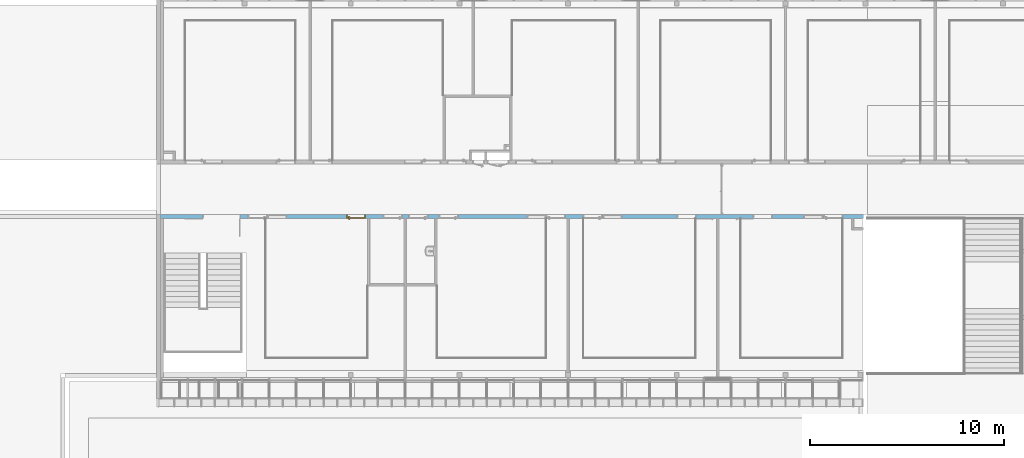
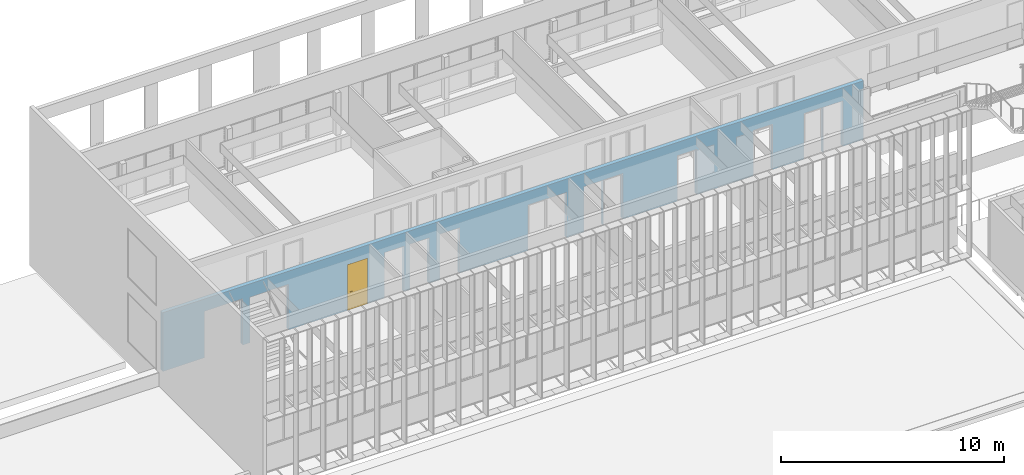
# One storey, part 40 of 106: 1 door, 15 openings, plus 1 element that does not belong to this part.
"""IFC2X3 building model written with IfcOpenShell, lengths in centimetres."""

from ifc_helpers import new_model, entity, si_unit, converted_unit, derived_unit, direction, frame, frame_2d, origin, place, context, subcontext, project, spatial, polyline, rectangle, extrude, clip, bounded_halfspace, faceted_brep, source, transform, mapped, material, material_list, layer, layer_set, layer_usage, type_object, type_shapes, element, fill, save


model = new_model("IFC2X3")

# Units and contexts
model_context = context("Model", 3, precision=0.001, world=origin(), true_north=direction((6.12303176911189e-17, 1.0)))
body_context = subcontext(model_context, "Body", "Model", "MODEL_VIEW")
ifc_project = project(units=[si_unit("LENGTHUNIT", "METRE", prefix="CENTI"), si_unit("AREAUNIT", "SQUARE_METRE"), si_unit("VOLUMEUNIT", "CUBIC_METRE"), converted_unit("PLANEANGLEUNIT", "DEGREE", entity("IfcRatioMeasure", 0.0174532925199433), si_unit("PLANEANGLEUNIT", "RADIAN"), dimensions=[0, 0, 0, 0, 0, 0, 0]), si_unit("MASSUNIT", "GRAM", prefix="KILO"), derived_unit("MASSDENSITYUNIT", [(si_unit("MASSUNIT", "GRAM", prefix="KILO"), 1), (si_unit("LENGTHUNIT", "METRE"), -3)]), si_unit("TIMEUNIT", "SECOND"), si_unit("FREQUENCYUNIT", "HERTZ"), si_unit("THERMODYNAMICTEMPERATUREUNIT", "DEGREE_CELSIUS"), derived_unit("THERMALTRANSMITTANCEUNIT", [(si_unit("MASSUNIT", "GRAM", prefix="KILO"), 1), (si_unit("THERMODYNAMICTEMPERATUREUNIT", "KELVIN"), -1), (si_unit("TIMEUNIT", "SECOND"), -3)]), derived_unit("VOLUMETRICFLOWRATEUNIT", [(si_unit("LENGTHUNIT", "METRE"), 3), (si_unit("TIMEUNIT", "SECOND"), -1)]), si_unit("ELECTRICCURRENTUNIT", "AMPERE"), si_unit("ELECTRICVOLTAGEUNIT", "VOLT"), si_unit("POWERUNIT", "WATT"), si_unit("FORCEUNIT", "NEWTON", prefix="KILO"), si_unit("ILLUMINANCEUNIT", "LUX"), si_unit("LUMINOUSFLUXUNIT", "LUMEN"), si_unit("LUMINOUSINTENSITYUNIT", "CANDELA"), derived_unit("USERDEFINED", [(si_unit("MASSUNIT", "GRAM", prefix="KILO"), -1), (si_unit("LENGTHUNIT", "METRE"), -2), (si_unit("TIMEUNIT", "SECOND"), 3), (si_unit("LUMINOUSFLUXUNIT", "LUMEN"), 1)]), derived_unit("LINEARVELOCITYUNIT", [(si_unit("LENGTHUNIT", "METRE"), 1), (si_unit("TIMEUNIT", "SECOND"), -1)]), si_unit("PRESSUREUNIT", "PASCAL"), derived_unit("USERDEFINED", [(si_unit("LENGTHUNIT", "METRE"), -2), (si_unit("MASSUNIT", "GRAM", prefix="KILO"), 1), (si_unit("TIMEUNIT", "SECOND"), -2)])], contexts=[model_context])

# Site, building, storey
site_placement = place(None, frame((-2781.94577612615, 7442.24238424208, 0.0)))
site = spatial("IfcSite", under=ifc_project, at=site_placement, Name="Default", CompositionType="ELEMENT")
building_placement = place(site_placement, origin())
building = spatial("IfcBuilding", under=site, at=building_placement, CompositionType="ELEMENT")
storey_placement = place(building_placement, frame((0.0, 0.0, 422.0)))
storey = spatial("IfcBuildingStorey", under=building, at=storey_placement, Name="Toiture - Cuisine", CompositionType="ELEMENT", Elevation=421.999999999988)

# Wall, openings, door
ifc_material_1 = material(Name="01 - Maçonnerie")
ifc_layer = layer(ifc_material_1, 20.0)
ifc_layer_set = layer_set([ifc_layer], Name="Mur de base:04 - Structure - béton - 20cm")
ifc_layer_usage = layer_usage(ifc_layer_set, "AXIS2", "NEGATIVE", 10.0)
wall_type = type_object("IfcWallType", Name="Mur de base:04 - Structure - béton - 20cm", PredefinedType="STANDARD", material=ifc_layer_set)
wall_placement = place(building_placement, frame((-4787.99987760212, -1100.0, 422.0), z_axis=(0.0, 0.0, 1.0), x_axis=(-1.0, 0.0, 0.0)))
wall = element("IfcWallStandardCase", 1, at=wall_placement, inside=storey, type_object=wall_type, material=ifc_layer_usage, Name="Mur de base:04 - Structure - béton - 20cm", ObjectType="Mur de base:04 - Structure - béton - 20cm", context=body_context, shape_type="Clipping", body=[
    clip(extrude(rectangle(XDim=3621.50000006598, YDim=20.0000000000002, at=frame_2d((1810.75000003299, 5.32907051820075e-14), x_axis=(-1.0, 0.0))), origin(), (0.0, 0.0, 1.0), 321.0), bounded_halfspace(frame((4.0, -10.0, 321.0), z_axis=(0.0, 0.0, -1.0), x_axis=(0.0, -1.0, 0.0)), True, frame((4.0, -10.0, 321.0)), polyline([(0.0, 0.0), (720.0, 0.0), (730.0, 0.0), (3617.50000006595, 0.0), (3617.50000006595, 20.0), (3602.20000006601, 20.0), (3077.50016406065, 20.0), (3075.50016406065, 20.0), (2550.5, 20.0), (2540.5, 20.0), (2362.50000003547, 20.0), (2352.50000003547, 20.0), (2203.5, 20.0), (2193.5, 20.0), (1632.5, 20.0), (1630.5, 20.0), (1522.50016406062, 20.0), (1512.50016406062, 20.0), (1440.5, 20.0), (1438.5, 20.0), (862.500000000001, 20.0), (860.5, 20.0), (750.500000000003, 20.0), (740.500000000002, 20.0), (630.500000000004, 20.0), (628.500000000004, 20.0), (104.500000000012, 20.0), (102.500000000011, 20.0), (56.0, 20.0), (46.0, 20.0), (0.0, 20.0), (0.0, 0.0)]))),
])
opening_1_placement = place(wall_placement, frame((3071.50016406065, -10.0, 0.0)))
element("IfcOpeningElement", 2, at=opening_1_placement, cuts=wall, Name="Int. Simple:PV (0.93m x 2.50m):1", ObjectType="Opening", context=body_context, shape_type="SweptSolid", body=[
    extrude(rectangle(XDim=248.500000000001, YDim=99.9999999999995, at=frame_2d((124.250000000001, 49.9999999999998), x_axis=(1.0, 0.0))), frame((0.0, 0.0, 0.0), z_axis=(0.0, 1.0, 0.0), x_axis=(0.0, 0.0, 1.0)), (0.0, 0.0, 1.0), 20.0),
])
opening_2_placement = place(wall_placement, frame((1534.5, -10.0, 0.0)))
element("IfcOpeningElement", 3, at=opening_2_placement, cuts=wall, Name="Int. Simple:PV (0.93m x 2.50m):1", ObjectType="Opening", context=body_context, shape_type="SweptSolid", body=[
    extrude(rectangle(XDim=248.500000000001, YDim=99.9999999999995, at=frame_2d((124.250000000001, 50.0), x_axis=(1.0, 0.0))), frame((0.0, 0.0, 0.0), z_axis=(0.0, 1.0, 0.0), x_axis=(0.0, 0.0, 1.0)), (0.0, 0.0, 1.0), 20.0),
])
opening_3_placement = place(wall_placement, frame((861.500000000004, -10.0, 0.0)))
element("IfcOpeningElement", 4, at=opening_3_placement, cuts=wall, Name="Int. Simple:PV (0.93m x 2.50m):1", ObjectType="Opening", context=body_context, shape_type="SweptSolid", body=[
    extrude(rectangle(XDim=248.500000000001, YDim=99.9999999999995, at=frame_2d((124.250000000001, 50.0), x_axis=(1.0, 0.0))), frame((0.0, 0.0, 0.0), z_axis=(0.0, 1.0, 0.0), x_axis=(0.0, 0.0, 1.0)), (0.0, 0.0, 1.0), 20.0),
])
opening_4_placement = place(wall_placement, frame((469.500000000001, -10.0, 0.0)))
element("IfcOpeningElement", 5, at=opening_4_placement, cuts=wall, Name="Int. Simple:PV (0.93m x 2.50m):1", ObjectType="Opening", context=body_context, shape_type="SweptSolid", body=[
    extrude(rectangle(XDim=248.500000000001, YDim=99.9999999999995, at=frame_2d((124.250000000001, 49.9999999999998), x_axis=(1.0, 0.0))), frame((0.0, 0.0, 0.0), z_axis=(0.0, 1.0, 0.0), x_axis=(0.0, 0.0, 1.0)), (0.0, 0.0, 1.0), 20.0),
])
opening_5_placement = place(wall_placement, frame((2971.50016406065, -10.0, 0.0)))
element("IfcOpeningElement", 6, at=opening_5_placement, cuts=wall, Name="châssis intérieur vitré:châssis intérieur vitré (h=270) R+1:1", ObjectType="Opening", context=body_context, shape_type="SweptSolid", body=[
    extrude(rectangle(XDim=250.0, YDim=99.9999999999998, at=frame_2d((125.0, 49.9999999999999), x_axis=(1.0, 0.0))), frame((0.0, 0.0, 0.0), z_axis=(0.0, 1.0, 0.0), x_axis=(0.0, 0.0, 1.0)), (0.0, 0.0, 1.0), 20.0),
])
opening_6_placement = place(wall_placement, frame((1634.50000000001, -10.0, 0.0)))
element("IfcOpeningElement", 7, at=opening_6_placement, cuts=wall, Name="châssis intérieur vitré:châssis intérieur vitré (h=270) R+1:1", ObjectType="Opening", context=body_context, shape_type="SweptSolid", body=[
    extrude(rectangle(XDim=250.0, YDim=99.9999999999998, at=frame_2d((125.0, 49.9999999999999), x_axis=(1.0, 0.0))), frame((0.0, 0.0, 0.0), z_axis=(0.0, 1.0, 0.0), x_axis=(0.0, 0.0, 1.0)), (0.0, 0.0, 1.0), 20.0),
])
opening_7_placement = place(wall_placement, frame((1243.0, -10.0, 0.0)))
element("IfcOpeningElement", 8, at=opening_7_placement, cuts=wall, Name="châssis intérieur vitré:châssis intérieur vitré (h=270) R+1:1", ObjectType="Opening", context=body_context, shape_type="SweptSolid", body=[
    extrude(rectangle(XDim=250.0, YDim=99.9999999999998, at=frame_2d((125.0, 49.9999999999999), x_axis=(1.0, 0.0))), frame((0.0, 0.0, 0.0), z_axis=(0.0, 1.0, 0.0), x_axis=(0.0, 0.0, 1.0)), (0.0, 0.0, 1.0), 20.0),
])
opening_8_placement = place(wall_placement, frame((208.0, -10.0, 0.0)))
element("IfcOpeningElement", 9, at=opening_8_placement, cuts=wall, Name="châssis intérieur vitré:châssis intérieur vitré (h=270) R+1:1", ObjectType="Opening", context=body_context, shape_type="SweptSolid", body=[
    extrude(rectangle(XDim=250.0, YDim=99.9999999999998, at=frame_2d((125.0, 49.9999999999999), x_axis=(1.0, 0.0))), frame((0.0, 0.0, 0.0), z_axis=(0.0, 1.0, 0.0), x_axis=(0.0, 0.0, 1.0)), (0.0, 0.0, 1.0), 20.0),
])
opening_9_placement = place(wall_placement, frame((2564.5, -10.0, 0.0)))
opening_9 = element("IfcOpeningElement", 10, at=opening_9_placement, cuts=wall, Name="Int. Simple:PV (0.93m x 2.50m):1", ObjectType="Opening", context=body_context, shape_type="SweptSolid", body=[
    extrude(rectangle(XDim=248.500000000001, YDim=99.9999999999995, at=frame_2d((124.250000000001, 50.0), x_axis=(1.0, 0.0))), frame((0.0, 0.0, 0.0), z_axis=(0.0, 1.0, 0.0), x_axis=(0.0, 0.0, 1.0)), (0.0, 0.0, 1.0), 20.0),
])
opening_10_placement = place(wall_placement, frame((2374.5, -10.0, 0.0)))
element("IfcOpeningElement", 11, at=opening_10_placement, cuts=wall, Name="Int. Simple:PP simple (0.93m x 2.50m):1", ObjectType="Opening", context=body_context, shape_type="SweptSolid", body=[
    extrude(rectangle(XDim=248.500000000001, YDim=99.9999999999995, at=frame_2d((124.250000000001, 49.9999999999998), x_axis=(1.0, 0.0))), frame((0.0, 0.0, 0.0), z_axis=(0.0, 1.0, 0.0), x_axis=(0.0, 0.0, 1.0)), (0.0, 0.0, 1.0), 20.0),
])
opening_11_placement = place(wall_placement, frame((2244.5, -10.0, 0.0)))
element("IfcOpeningElement", 12, at=opening_11_placement, cuts=wall, Name="Int. Simple:PP simple (0.93m x 2.50m):1", ObjectType="Opening", context=body_context, shape_type="SweptSolid", body=[
    extrude(rectangle(XDim=248.500000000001, YDim=99.9999999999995, at=frame_2d((124.250000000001, 49.9999999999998), x_axis=(1.0, 0.0))), frame((0.0, 0.0, 0.0), z_axis=(0.0, 1.0, 0.0), x_axis=(0.0, 0.0, 1.0)), (0.0, 0.0, 1.0), 20.0),
])
opening_12_placement = place(wall_placement, frame((2087.5, -10.0, 0.0)))
element("IfcOpeningElement", 13, at=opening_12_placement, cuts=wall, Name="Int. Simple:PV (0.93m x 2.50m):1", ObjectType="Opening", context=body_context, shape_type="SweptSolid", body=[
    extrude(rectangle(XDim=248.500000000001, YDim=99.9999999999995, at=frame_2d((124.250000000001, 49.9999999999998), x_axis=(1.0, 0.0))), frame((0.0, 0.0, 0.0), z_axis=(0.0, 1.0, 0.0), x_axis=(0.0, 0.0, 1.0)), (0.0, 0.0, 1.0), 20.0),
])
opening_13_placement = place(wall_placement, frame((1344.5, -10.0, 0.0)))
element("IfcOpeningElement", 14, at=opening_13_placement, cuts=wall, Name="Int. Simple:PV (0.93m x 2.50m):1", ObjectType="Opening", context=body_context, shape_type="SweptSolid", body=[
    extrude(rectangle(XDim=248.500000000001, YDim=99.9999999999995, at=frame_2d((124.250000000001, 49.9999999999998), x_axis=(1.0, 0.0))), frame((0.0, 0.0, 0.0), z_axis=(0.0, 1.0, 0.0), x_axis=(0.0, 0.0, 1.0)), (0.0, 0.0, 1.0), 20.0),
])
opening_14_placement = place(wall_placement, frame((106.500000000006, -10.0, 0.0)))
element("IfcOpeningElement", 15, at=opening_14_placement, cuts=wall, Name="Int. Simple:PV (0.93m x 2.50m):1", ObjectType="Opening", context=body_context, shape_type="SweptSolid", body=[
    extrude(rectangle(XDim=248.500000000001, YDim=99.9999999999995, at=frame_2d((124.250000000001, 50.0), x_axis=(1.0, 0.0))), frame((0.0, 0.0, 0.0), z_axis=(0.0, 1.0, 0.0), x_axis=(0.0, 0.0, 1.0)), (0.0, 0.0, 1.0), 20.0),
])
opening_15_placement = place(wall_placement, frame((3208.50000000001, -10.0, 0.0)))
element("IfcOpeningElement", 16, at=opening_15_placement, cuts=wall, Name="Int. Double:PP (1.90m x 2.50m):1", ObjectType="Opening", context=body_context, shape_type="SweptSolid", body=[
    extrude(rectangle(XDim=253.500000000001, YDim=197.0, at=frame_2d((126.750000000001, 98.5), x_axis=(1.0, 0.0))), frame((0.0, 0.0, 0.0), z_axis=(0.0, 1.0, 0.0), x_axis=(0.0, 0.0, 1.0)), (0.0, 0.0, 1.0), 20.0),
])
ifc_material_2 = material(Name="Finition Peinture - Blanc satiné")
ifc_material_3 = material(Name="Bois - Panneau de porte")
ifc_material_4 = material(Name="Bois - Cadre de porte")
ifc_material_list_1 = material_list([ifc_material_2, ifc_material_3, ifc_material_4])
ifc_material_list_2 = material_list([ifc_material_2, ifc_material_3, ifc_material_4])
door_style = type_object("IfcDoorStyle", Name="PV (0.93m x 2.50m)", ConstructionType="NOTDEFINED", OperationType="SINGLE_SWING_LEFT", ParameterTakesPrecedence=False, Sizeable=False, material=ifc_material_list_2)
shared_shape = source(origin(), body_context, "Body", "Brep", [
    faceted_brep([(10.5352761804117, -0.500000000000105, 86.6003983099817), (11.5000000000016, -0.500000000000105, 87.0), (11.5000000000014, -0.500000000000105, 108.0), (10.5352761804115, -0.500000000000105, 108.399601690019), (9.50000000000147, -0.500000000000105, 108.535898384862), (8.46472381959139, -0.500000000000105, 108.399601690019), (7.50000000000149, -0.500000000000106, 108.0), (7.50000000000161, -0.500000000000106, 87.0), (8.46472381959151, -0.500000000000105, 86.6003983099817), (9.50000000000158, -0.500000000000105, 86.464101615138), (10.5352761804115, 0.0, 108.399601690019), (11.5000000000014, 0.0, 108.0), (11.5000000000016, 0.0, 87.0), (10.5352761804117, 0.0, 86.6003983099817), (9.50000000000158, 0.0, 86.464101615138), (8.46472381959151, 0.0, 86.6003983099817), (7.50000000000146, 0.0, 87.0), (7.50000000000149, 0.0, 108.0), (8.46472381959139, 0.0, 108.399601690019), (9.50000000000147, 0.0, 108.535898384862)], [[[0, 1, 2, 3, 4, 5, 6, 7, 8, 9]], [[10, 11, 12, 13, 14, 15, 16, 17, 18, 19]], [[16, 15, 8, 7]], [[8, 15, 14, 9]], [[14, 13, 0, 9]], [[13, 12, 1, 0]], [[2, 1, 12, 11]], [[11, 10, 3, 2]], [[3, 10, 19, 4]], [[19, 18, 5, 4]], [[18, 17, 6, 5]], [[7, 6, 17, 16]]]),
    faceted_brep([(10.5352761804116, 4.0, 86.6003983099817), (11.5000000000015, 4.0, 87.0), (11.5000000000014, 4.0, 108.0), (10.5352761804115, 4.0, 108.399601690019), (9.50000000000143, 4.0, 108.535898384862), (8.46472381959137, 4.0, 108.399601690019), (7.50000000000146, 4.0, 108.0), (7.50000000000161, 4.0, 87.0), (8.46472381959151, 4.0, 86.6003983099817), (9.50000000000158, 4.0, 86.464101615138), (10.5352761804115, 4.49999999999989, 108.399601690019), (11.5000000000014, 4.49999999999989, 108.0), (11.5000000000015, 4.49999999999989, 87.0), (10.5352761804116, 4.49999999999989, 86.6003983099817), (9.50000000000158, 4.49999999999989, 86.464101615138), (8.46472381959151, 4.49999999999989, 86.6003983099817), (7.50000000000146, 4.49999999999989, 87.0), (7.50000000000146, 4.49999999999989, 108.0), (8.46472381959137, 4.49999999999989, 108.399601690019), (9.50000000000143, 4.49999999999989, 108.535898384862)], [[[0, 1, 2, 3, 4, 5, 6, 7, 8, 9]], [[10, 11, 12, 13, 14, 15, 16, 17, 18, 19]], [[11, 10, 3, 2]], [[3, 10, 19, 4]], [[19, 18, 5, 4]], [[18, 17, 6, 5]], [[7, 6, 17, 16]], [[16, 15, 8, 7]], [[8, 15, 14, 9]], [[14, 13, 0, 9]], [[13, 12, 1, 0]], [[2, 1, 12, 11]]]),
    faceted_brep([(9.29747013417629, -0.500000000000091, 100.778044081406), (9.70252986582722, -0.500000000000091, 100.778044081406), (10.1000000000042, -0.500000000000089, 100.699999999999), (10.1000000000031, -0.500000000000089, 99.3000000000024), (9.7025298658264, -0.500000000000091, 99.2219559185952), (9.29747013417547, -0.500000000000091, 99.221955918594), (8.8999999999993, -0.500000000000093, 99.2999999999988), (8.89999999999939, -0.500000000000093, 100.7), (8.89999999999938, -3.26509507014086, 100.7), (9.29747013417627, -3.10045754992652, 100.778044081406), (10.9023585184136, -4.70534593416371, 100.778044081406), (11.0701397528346, -4.30028620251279, 100.778044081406), (9.7025298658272, -2.93267631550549, 100.778044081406), (10.1000000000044, -2.76803879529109, 100.7), (10.1000000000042, -2.76803879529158, 99.3000000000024), (9.7025298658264, -2.93267631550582, 99.2219559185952), (11.0701397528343, -4.30028620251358, 99.2219559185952), (10.9023585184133, -4.70534593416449, 99.221955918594), (9.29747013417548, -3.10045754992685, 99.221955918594), (8.89999999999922, -3.26509507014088, 99.2999999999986), (10.7377209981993, -5.10281606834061, 100.7), (11.2347772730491, -3.90281606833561, 100.7), (11.2347772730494, -3.90281606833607, 99.3000000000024), (10.7377209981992, -5.10281606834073, 99.2999999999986), (19.5018640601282, -5.1028160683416, 99.2999999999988), (19.5018640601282, -4.70534593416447, 99.221955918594), (19.5018640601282, -4.30028620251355, 99.2219559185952), (19.5018640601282, -3.90281606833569, 99.3000000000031), (19.5018640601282, -3.90281606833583, 100.7), (19.5018640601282, -4.30028620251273, 100.778044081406), (19.5018640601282, -4.70534593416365, 100.778044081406), (19.5018640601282, -5.10281606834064, 100.699999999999), (14.7307697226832, -5.10281606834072, 100.7), (15.2860019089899, -4.5028160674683, 100.78786867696), (15.3683206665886, -3.9028160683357, 100.7), (15.3683206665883, -3.90281606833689, 99.3000000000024), (15.2860018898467, -4.50281607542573, 99.2121313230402), (14.7307700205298, -5.10281606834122, 99.2999999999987)], [[[0, 1, 2, 3, 4, 5, 6, 7]], [[8, 9, 0, 7]], [[9, 10, 11, 12, 1, 0]], [[12, 13, 2, 1]], [[3, 2, 13, 14]], [[14, 15, 4, 3]], [[15, 16, 17, 18, 5, 4]], [[18, 19, 6, 5]], [[7, 6, 19, 8]], [[20, 10, 9, 8]], [[11, 21, 13, 12]], [[14, 13, 21, 22]], [[22, 16, 15, 14]], [[17, 23, 19, 18]], [[8, 19, 23, 20]], [[24, 25, 26, 27, 28, 29, 30, 31]], [[32, 30, 33]], [[31, 30, 32]], [[10, 20, 32]], [[33, 34, 11]], [[21, 11, 34]], [[34, 29, 28]], [[30, 29, 33]], [[29, 34, 33]], [[10, 32, 33]], [[10, 33, 11]], [[22, 21, 34, 28, 27, 35]], [[35, 26, 36]], [[37, 36, 25]], [[22, 35, 16]], [[35, 27, 26]], [[24, 37, 25]], [[23, 17, 37]], [[37, 17, 36]], [[17, 16, 36]], [[16, 35, 36]], [[25, 36, 26]], [[20, 23, 37, 24, 31, 32]]]),
    faceted_brep([(9.29747013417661, 4.49999999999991, 100.778044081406), (8.89999999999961, 4.4999999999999, 100.7), (8.89999999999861, 4.4999999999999, 99.2999999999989), (9.29747013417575, 4.49999999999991, 99.221955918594), (9.70252986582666, 4.49999999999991, 99.2219559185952), (10.1000000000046, 4.49999999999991, 99.3000000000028), (10.1000000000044, 4.49999999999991, 100.7), (9.70252986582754, 4.49999999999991, 100.778044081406), (10.1000000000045, 6.7485204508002, 99.3000000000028), (10.1000000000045, 6.74852045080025, 100.7), (9.70252986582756, 6.91315797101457, 100.778044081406), (11.083890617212, 8.29451872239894, 100.778044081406), (10.916109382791, 8.69957845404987, 100.778044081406), (9.29747013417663, 7.0809392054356, 100.778044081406), (8.89999999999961, 7.24557672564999, 100.7), (8.89999999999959, 7.2455767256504, 99.2999999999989), (9.29747013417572, 7.08093920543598, 99.221955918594), (10.9161093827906, 8.69957845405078, 99.221955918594), (11.0838906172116, 8.29451872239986, 99.2219559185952), (9.70252986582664, 6.91315797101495, 99.2219559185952), (11.2485281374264, 7.89704858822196, 99.3000000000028), (11.2485281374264, 7.89704858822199, 100.7), (10.7514718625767, 9.09704858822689, 100.7), (10.7514718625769, 9.0970485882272, 99.2999999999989), (19.5045783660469, 7.89704858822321, 99.3000000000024), (19.5045783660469, 8.29451872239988, 99.2219559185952), (19.5045783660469, 8.6995784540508, 99.221955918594), (19.5045783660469, 9.09704858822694, 99.2999999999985), (19.5045783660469, 9.09704858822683, 100.7), (19.5045783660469, 8.69957845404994, 100.778044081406), (19.5045783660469, 8.29451872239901, 100.778044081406), (19.5045783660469, 7.89704858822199, 100.7), (15.3765520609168, 7.89704858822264, 99.3000000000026), (15.3765532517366, 7.89704858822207, 100.7), (15.294234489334, 8.49704858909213, 100.78786867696), (14.7445205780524, 9.09704858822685, 100.7), (14.7445204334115, 9.09704858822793, 99.2999999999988), (15.2942345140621, 8.49704858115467, 99.2121313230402)], [[[0, 1, 2, 3, 4, 5, 6, 7]], [[6, 5, 8, 9]], [[9, 10, 7, 6]], [[10, 11, 12, 13, 0, 7]], [[13, 14, 1, 0]], [[2, 1, 14, 15]], [[15, 16, 3, 2]], [[16, 17, 18, 19, 4, 3]], [[19, 8, 5, 4]], [[9, 8, 20, 21]], [[21, 11, 10, 9]], [[12, 22, 14, 13]], [[15, 14, 22, 23]], [[23, 17, 16, 15]], [[18, 20, 8, 19]], [[24, 25, 26, 27, 28, 29, 30, 31]], [[21, 20, 32, 24, 31, 33]], [[33, 30, 34]], [[35, 34, 29]], [[21, 33, 11]], [[33, 31, 30]], [[28, 35, 29]], [[22, 12, 35]], [[35, 12, 34]], [[12, 11, 34]], [[11, 33, 34]], [[29, 34, 30]], [[22, 35, 28, 27, 36, 23]], [[36, 26, 37]], [[27, 26, 36]], [[17, 23, 36]], [[37, 32, 18]], [[20, 18, 32]], [[32, 25, 24]], [[26, 25, 37]], [[25, 32, 37]], [[17, 36, 37]], [[17, 37, 18]]]),
    faceted_brep([(3.50000000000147, 4.0, 245.0), (96.5000000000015, 4.0, 245.0), (96.5000000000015, 4.0, 0.0), (3.50000000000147, 4.0, 0.0), (3.50000000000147, 0.0, 245.0), (3.50000000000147, 0.0, 0.0), (96.5000000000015, 0.0, 0.0), (96.5000000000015, 0.0, 245.0)], [[[0, 1, 2, 3]], [[4, 5, 6, 7]], [[1, 0, 4, 7]], [[2, 1, 7, 6]], [[3, 2, 6, 5]], [[0, 3, 5, 4]]]),
    faceted_brep([(0.0, 20.0, 0.0), (-1.50000000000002, 20.0, 0.0), (-1.50000000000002, 20.5000000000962, 0.0), (5.0, 20.5000000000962, 0.0), (5.0, 4.0, 0.0), (3.50000000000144, 4.0, 0.0), (3.50000000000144, -0.500000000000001, 0.0), (-1.50000000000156, -0.500000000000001, 0.0), (-1.50000000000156, 0.0, 0.0), (0.0, 0.0, 0.0), (0.0, 20.0, 248.500000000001), (100.0, 20.0, 248.500000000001), (100.0, 20.0, 0.0), (101.5, 20.0, 0.0), (101.5, 20.0, 250.0), (-1.50000000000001, 20.0, 250.0), (-1.50000000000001, 20.5000000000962, 250.0), (101.5, 20.5000000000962, 250.0), (101.5, 20.5000000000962, 0.0), (95.0, 20.5000000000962, 0.0), (95.0, 20.5000000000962, 243.5), (5.0, 20.5000000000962, 243.5), (5.0, 4.0, 243.5), (95.0, 4.0, 243.5), (95.0, 4.0, 0.0), (96.499999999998, 4.0, 0.0), (96.499999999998, 4.0, 245.0), (3.50000000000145, 4.0, 245.0), (3.50000000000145, -0.500000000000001, 245.0), (96.499999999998, -0.500000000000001, 245.0), (96.499999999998, -0.500000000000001, 0.0), (101.500000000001, -0.500000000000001, 0.0), (101.500000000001, -0.500000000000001, 250.0), (-1.50000000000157, -0.500000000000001, 250.0), (-1.50000000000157, 0.0, 250.0), (101.500000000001, 0.0, 250.0), (101.500000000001, 0.0, 0.0), (100.0, 0.0, 0.0), (100.0, 0.0, 248.500000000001), (0.0, 0.0, 248.500000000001)], [[[0, 1, 2, 3, 4, 5, 6, 7, 8, 9]], [[1, 0, 10, 11, 12, 13, 14, 15]], [[2, 1, 15, 16]], [[3, 2, 16, 17, 18, 19, 20, 21]], [[3, 21, 22, 4]], [[5, 4, 22, 23, 24, 25, 26, 27]], [[5, 27, 28, 6]], [[7, 6, 28, 29, 30, 31, 32, 33]], [[8, 7, 33, 34]], [[9, 8, 34, 35, 36, 37, 38, 39]], [[0, 9, 39, 10]], [[11, 38, 37, 12]], [[12, 37, 36, 31, 30, 25, 24, 19, 18, 13]], [[17, 14, 13, 18]], [[23, 20, 19, 24]], [[29, 26, 25, 30]], [[35, 32, 31, 36]], [[16, 15, 14, 17]], [[22, 21, 20, 23]], [[28, 27, 26, 29]], [[34, 33, 32, 35]], [[10, 39, 38, 11]]]),
])
type_shapes(door_style, [shared_shape])
door_placement = place(opening_9_placement, frame((100.0, 20.0, 0.0), z_axis=(0.0, 0.0, 1.0), x_axis=(-1.0, 0.0, 0.0)))
door = element("IfcDoor", 17, at=door_placement, inside=storey, type_object=door_style, material=ifc_material_list_1, Name="Int. Simple:PV (0.93m x 2.50m)", ObjectType="Int. Simple:PV (0.93m x 2.50m)", OverallHeight=248.500000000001, OverallWidth=99.9999999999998, context=body_context, shape_type="MappedRepresentation", body=[
    mapped(shared_shape, transform((0.0, 0.0, 0.0), scale=1.0)),
])
fill(opening_9, door)

save(model, "model.ifc")
